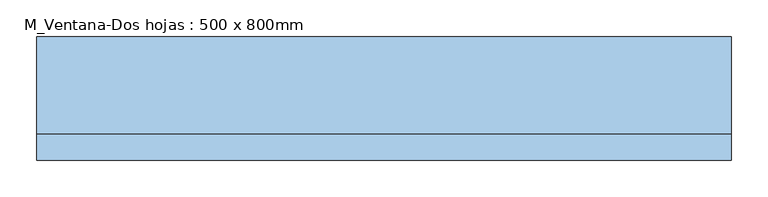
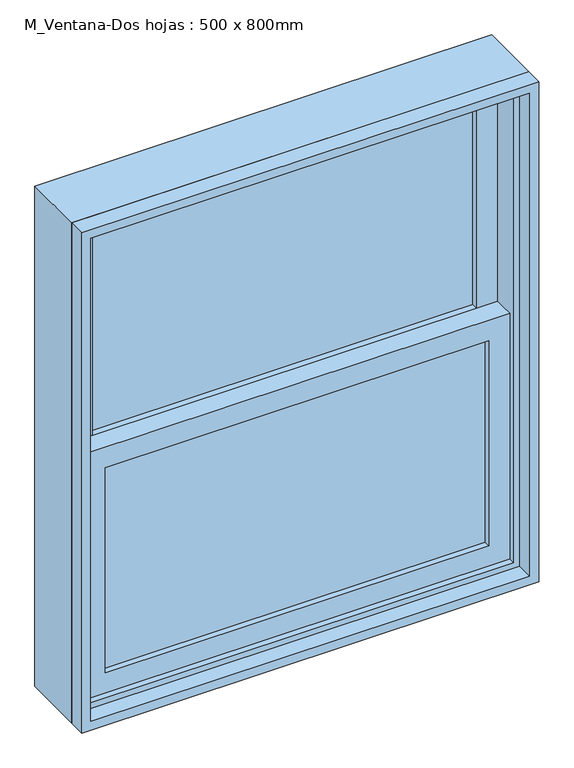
"""IFC4 building model written with IfcOpenShell, lengths in millimetres: window geometry, M_Ventana-Dos hojas : 500 x 800mm."""

from ifc_helpers import new_model, si_unit, frame, origin, place, context, project, spatial, polyline, outline, extrude, source, transform, mapped, element, save


def m_ventana_dos_hojas_500_x_800mm_5dca547a(model_context):
    return source(origin(), model_context, "Body", "SweptSolid", [
        extrude(outline(polyline([(2014.4, 475.0), (2014.4, -475.0), (914.4, -475.0), (914.4, 475.0), (2014.4, 475.0)]), holes=[polyline([(1995.35, 455.95), (933.45, 455.95), (933.45, -455.95), (1995.35, -455.95), (1995.35, 455.95)])]), frame((0.0, -75.0, 0.0), z_axis=(0.0, 1.0, 0.0), x_axis=(0.0, 0.0, 1.0)), (0.0, 0.0, 1.0), 35.7),
        extrude(outline(polyline([(2014.4, -475.0), (914.4, -475.0), (914.4, 475.0), (2014.4, 475.0), (2014.4, -475.0)]), holes=[polyline([(1982.65, 443.25), (946.15, 443.25), (946.15, -443.25), (1982.65, -443.25), (1982.65, 443.25)])]), frame((0.0, -39.3, 0.0), z_axis=(0.0, 1.0, 0.0), x_axis=(0.0, 0.0, 1.0)), (0.0, 0.0, 1.0), 133.35),
        extrude(outline(polyline([(1982.65, -443.25), (1442.175, -443.25), (1442.175, 443.25), (1982.65, 443.25), (1982.65, -443.25)]), holes=[polyline([(1938.2, 398.8), (1486.625, 398.8), (1486.625, -398.8), (1938.2, -398.8), (1938.2, 398.8)])]), frame((0.0, 17.85, 0.0), z_axis=(0.0, 1.0, 0.0), x_axis=(0.0, 0.0, 1.0)), (0.0, 0.0, 1.0), 44.45),
        extrude(outline(polyline([(1486.625, -443.25), (946.15, -443.25), (946.15, 443.25), (1486.625, 443.25), (1486.625, -443.25)]), holes=[polyline([(1442.175, 398.8), (990.6, 398.8), (990.6, -398.8), (1442.175, -398.8), (1442.175, 398.8)])]), frame((0.0, -26.6, 0.0), z_axis=(0.0, 1.0, 0.0), x_axis=(0.0, 0.0, 1.0)), (0.0, 0.0, 1.0), 44.45),
        extrude(outline(polyline([(398.8, 49.6), (398.8, 43.25), (-398.8, 43.25), (-398.8, 49.6), (398.8, 49.6)])), frame((0.0, 0.0, 1486.625), z_axis=(0.0, 0.0, 1.0), x_axis=(1.0, 0.0, 0.0)), (0.0, 0.0, 1.0), 451.575),
        extrude(outline(polyline([(-398.8, 36.9), (398.8, 36.9), (398.8, 30.55), (-398.8, 30.55), (-398.8, 36.9)])), frame((0.0, 0.0, 1486.625), z_axis=(0.0, 0.0, 1.0), x_axis=(1.0, 0.0, 0.0)), (0.0, 0.0, 1.0), 451.575),
        extrude(outline(polyline([(398.8, 5.15), (398.8, -1.2), (-398.8, -1.2), (-398.8, 5.15), (398.8, 5.15)])), frame((0.0, 0.0, 990.6), z_axis=(0.0, 0.0, 1.0), x_axis=(1.0, 0.0, 0.0)), (0.0, 0.0, 1.0), 451.575),
        extrude(outline(polyline([(-398.8, -7.55), (398.8, -7.55), (398.8, -13.9), (-398.8, -13.9), (-398.8, -7.55)])), frame((0.0, 0.0, 990.6), z_axis=(0.0, 0.0, 1.0), x_axis=(1.0, 0.0, 0.0)), (0.0, 0.0, 1.0), 451.575),
    ])


if __name__ == "__main__":
    model = new_model("IFC4")
    model_context = context("Model", 3, world=origin())
    ifc_project = project(units=[si_unit("LENGTHUNIT", "METRE", prefix="MILLI")], contexts=[model_context])
    site = spatial("IfcSite", under=ifc_project)
    building = spatial("IfcBuilding", under=site)
    placement = place(None, origin())
    m_ventana_dos_hojas_500_x_800mm_shape = m_ventana_dos_hojas_500_x_800mm_5dca547a(model_context)
    element("IfcWindow", 1, ObjectType="M_Ventana-Dos hojas : 500 x 800mm", at=placement, inside=building, context=model_context, shape_type="MappedRepresentation", body=[
        mapped(m_ventana_dos_hojas_500_x_800mm_shape, transform((0.0, 0.0, 0.0), x_axis=(1.0, 0.0, 0.0), y_axis=(0.0, 1.0, 0.0), z_axis=(0.0, 0.0, 1.0))),
    ])
    save(model, "model.ifc")
